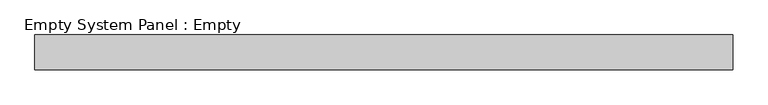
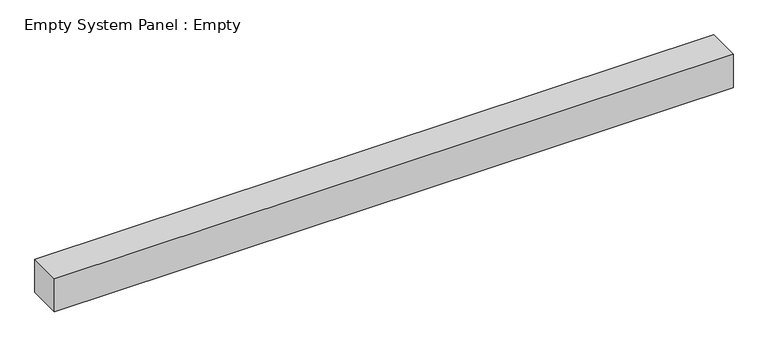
"""IFC4 building model written with IfcOpenShell, lengths in millimetres: plate geometry, Empty System Panel : Empty."""

from ifc_helpers import new_model, si_unit, origin, origin_with_axes, place, context, project, spatial, polyline, outline, extrude, source, transform, mapped, element, save


def empty_system_panel_empty_ea596e22(model_context):
    return source(origin(), model_context, "Body", "SweptSolid", [
        extrude(outline(polyline([(1000.0, -50.0), (-1000.0, -50.0), (-1000.0, 50.0), (1000.0, 50.0), (1000.0, -50.0)])), origin_with_axes(), (0.0, 0.0, 1.0), 103.4583694),
    ])


if __name__ == "__main__":
    model = new_model("IFC4")
    model_context = context("Model", 3, world=origin())
    ifc_project = project(units=[si_unit("LENGTHUNIT", "METRE", prefix="MILLI")], contexts=[model_context])
    site = spatial("IfcSite", under=ifc_project)
    building = spatial("IfcBuilding", under=site)
    placement = place(None, origin())
    empty_system_panel_empty_shape = empty_system_panel_empty_ea596e22(model_context)
    element("IfcPlate", 1, ObjectType="Empty System Panel : Empty", at=placement, inside=building, context=model_context, shape_type="MappedRepresentation", body=[
        mapped(empty_system_panel_empty_shape, transform((0.0, 0.0, 0.0), x_axis=(1.0, 0.0, 0.0), y_axis=(0.0, 1.0, 0.0), z_axis=(0.0, 0.0, 1.0))),
    ])
    save(model, "model.ifc")
